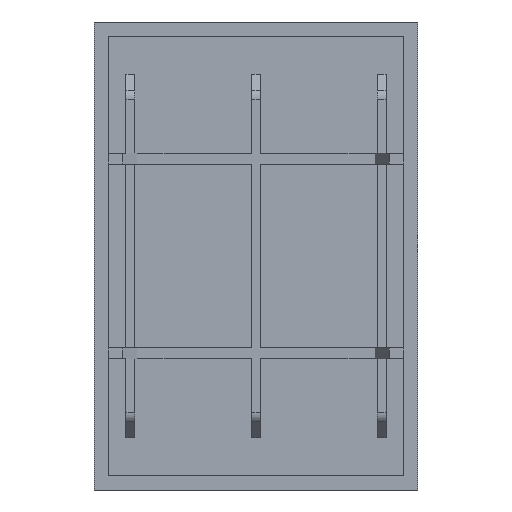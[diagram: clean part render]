
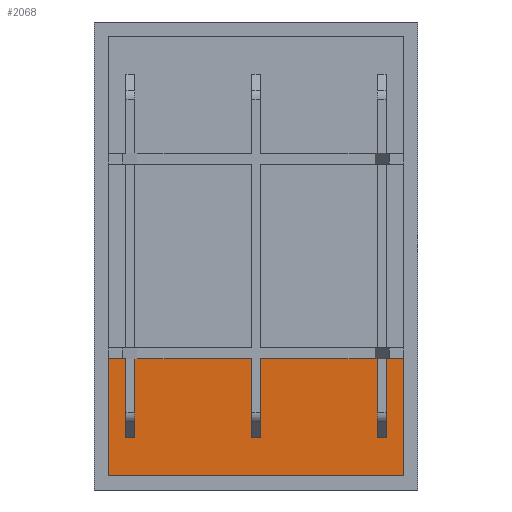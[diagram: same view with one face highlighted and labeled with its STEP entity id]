
A CAD part, front view. The second image highlights one B-rep face of the part: STEP entity #2068.
In plain terms, the highlighted planar face has unit normal (0, -1, 0).
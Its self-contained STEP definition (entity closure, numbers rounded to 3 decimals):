
#15 = CARTESIAN_POINT ( 'NONE',  ( 66.75, 1., -147.807 ) ) ;
#58 = CARTESIAN_POINT ( 'NONE',  ( 36., 1., -95. ) ) ;
#64 = VERTEX_POINT ( 'NONE', #329 ) ;
#101 = ORIENTED_EDGE ( 'NONE', *, *, #277, .F. ) ;
#126 = DIRECTION ( 'NONE',  ( 0., 0., -1. ) ) ;
#132 = VERTEX_POINT ( 'NONE', #1698 ) ;
#135 = ORIENTED_EDGE ( 'NONE', *, *, #1420, .F. ) ;
#153 = VERTEX_POINT ( 'NONE', #896 ) ;
#166 = DIRECTION ( 'NONE',  ( 1., 0., 0. ) ) ;
#182 = VERTEX_POINT ( 'NONE', #1753 ) ;
#191 = CARTESIAN_POINT ( 'NONE',  ( 3.25, 1., -77. ) ) ;
#208 = VERTEX_POINT ( 'NONE', #2368 ) ;
#255 = VERTEX_POINT ( 'NONE', #191 ) ;
#263 = CARTESIAN_POINT ( 'NONE',  ( 7.25, 1., -77. ) ) ;
#277 = EDGE_CURVE ( 'NONE', #182, #339, #755, .T. ) ;
#280 = VECTOR ( 'NONE', #1106, 1000. ) ;
#296 = LINE ( 'NONE', #694, #1569 ) ;
#298 = ORIENTED_EDGE ( 'NONE', *, *, #1861, .T. ) ;
#313 = EDGE_CURVE ( 'NONE', #2507, #1286, #1240, .T. ) ;
#329 = CARTESIAN_POINT ( 'NONE',  ( 64.75, 1., -95. ) ) ;
#339 = VERTEX_POINT ( 'NONE', #2227 ) ;
#359 = DIRECTION ( 'NONE',  ( 0., 0., -1. ) ) ;
#470 = EDGE_CURVE ( 'NONE', #153, #1301, #296, .T. ) ;
#477 = VERTEX_POINT ( 'NONE', #1478 ) ;
#491 = LINE ( 'NONE', #1890, #852 ) ;
#494 = EDGE_LOOP ( 'NONE', ( #1550, #2557, #502, #2315, #1036, #1694, #2497, #713, #101, #1306, #2514, #2498, #135, #2035, #298, #1923 ) ) ;
#502 = ORIENTED_EDGE ( 'NONE', *, *, #313, .T. ) ;
#564 = EDGE_CURVE ( 'NONE', #477, #182, #491, .T. ) ;
#615 = LINE ( 'NONE', #1595, #1020 ) ;
#694 = CARTESIAN_POINT ( 'NONE',  ( 7.25, 1., -95. ) ) ;
#713 = ORIENTED_EDGE ( 'NONE', *, *, #2060, .F. ) ;
#726 = DIRECTION ( 'NONE',  ( 1., 0., 0. ) ) ;
#755 = LINE ( 'NONE', #2569, #813 ) ;
#780 = VECTOR ( 'NONE', #1048, 1000. ) ;
#784 = VECTOR ( 'NONE', #2033, 1000. ) ;
#813 = VECTOR ( 'NONE', #359, 1000. ) ;
#814 = AXIS2_PLACEMENT_3D ( 'NONE', #856, #2084, #1683 ) ;
#852 = VECTOR ( 'NONE', #726, 1000. ) ;
#856 = CARTESIAN_POINT ( 'NONE',  ( 3.25, 1., -103.75 ) ) ;
#896 = CARTESIAN_POINT ( 'NONE',  ( 7.25, 1., -95. ) ) ;
#925 = CARTESIAN_POINT ( 'NONE',  ( 3.25, 1., -103.75 ) ) ;
#936 = CARTESIAN_POINT ( 'NONE',  ( 64.75, 1., -147.807 ) ) ;
#938 = CARTESIAN_POINT ( 'NONE',  ( 9.25, 1., -12. ) ) ;
#1006 = EDGE_CURVE ( 'NONE', #208, #64, #2147, .T. ) ;
#1009 = CARTESIAN_POINT ( 'NONE',  ( 37., 1., -77. ) ) ;
#1020 = VECTOR ( 'NONE', #1215, 1000. ) ;
#1036 = ORIENTED_EDGE ( 'NONE', *, *, #1006, .F. ) ;
#1040 = EDGE_CURVE ( 'NONE', #1705, #132, #1958, .T. ) ;
#1048 = DIRECTION ( 'NONE',  ( 1., 0., 0. ) ) ;
#1075 = EDGE_CURVE ( 'NONE', #255, #1658, #1748, .T. ) ;
#1091 = LINE ( 'NONE', #58, #1954 ) ;
#1098 = LINE ( 'NONE', #1736, #1441 ) ;
#1106 = DIRECTION ( 'NONE',  ( 0., 0., -1. ) ) ;
#1115 = DIRECTION ( 'NONE',  ( 1., 0., 0. ) ) ;
#1126 = CARTESIAN_POINT ( 'NONE',  ( 9.75, 1., -77. ) ) ;
#1131 = CARTESIAN_POINT ( 'NONE',  ( 66.75, 1., -77. ) ) ;
#1166 = VERTEX_POINT ( 'NONE', #1994 ) ;
#1170 = EDGE_CURVE ( 'NONE', #1690, #1166, #615, .T. ) ;
#1215 = DIRECTION ( 'NONE',  ( 0., 0., -1. ) ) ;
#1240 = LINE ( 'NONE', #15, #784 ) ;
#1286 = VERTEX_POINT ( 'NONE', #2272 ) ;
#1301 = VERTEX_POINT ( 'NONE', #2259 ) ;
#1306 = ORIENTED_EDGE ( 'NONE', *, *, #564, .F. ) ;
#1337 = EDGE_CURVE ( 'NONE', #2507, #1730, #1840, .T. ) ;
#1354 = LINE ( 'NONE', #2346, #280 ) ;
#1420 = EDGE_CURVE ( 'NONE', #1658, #153, #1354, .T. ) ;
#1431 = VECTOR ( 'NONE', #1982, 1000. ) ;
#1441 = VECTOR ( 'NONE', #1921, 1000. ) ;
#1478 = CARTESIAN_POINT ( 'NONE',  ( 9.25, 1., -77. ) ) ;
#1543 = VECTOR ( 'NONE', #1623, 1000. ) ;
#1550 = ORIENTED_EDGE ( 'NONE', *, *, #2476, .T. ) ;
#1569 = VECTOR ( 'NONE', #1115, 1000. ) ;
#1595 = CARTESIAN_POINT ( 'NONE',  ( 38., 1., -77. ) ) ;
#1608 = VECTOR ( 'NONE', #2556, 1000. ) ;
#1612 = LINE ( 'NONE', #1009, #1696 ) ;
#1623 = DIRECTION ( 'NONE',  ( 0., 0., 1. ) ) ;
#1658 = VERTEX_POINT ( 'NONE', #263 ) ;
#1683 = DIRECTION ( 'NONE',  ( 0., 0., -1. ) ) ;
#1690 = VERTEX_POINT ( 'NONE', #1889 ) ;
#1694 = ORIENTED_EDGE ( 'NONE', *, *, #2269, .F. ) ;
#1696 = VECTOR ( 'NONE', #2596, 1000. ) ;
#1698 = CARTESIAN_POINT ( 'NONE',  ( 70.75, 1., -103.75 ) ) ;
#1705 = VERTEX_POINT ( 'NONE', #925 ) ;
#1719 = EDGE_CURVE ( 'NONE', #477, #1301, #2350, .T. ) ;
#1721 = EDGE_CURVE ( 'NONE', #64, #1286, #1098, .T. ) ;
#1730 = VERTEX_POINT ( 'NONE', #2323 ) ;
#1736 = CARTESIAN_POINT ( 'NONE',  ( 37., 1., -95. ) ) ;
#1748 = LINE ( 'NONE', #1126, #1608 ) ;
#1753 = CARTESIAN_POINT ( 'NONE',  ( 36., 1., -77. ) ) ;
#1761 = CARTESIAN_POINT ( 'NONE',  ( 3.25, 1., -3.25 ) ) ;
#1795 = LINE ( 'NONE', #1761, #1431 ) ;
#1840 = LINE ( 'NONE', #2053, #780 ) ;
#1861 = EDGE_CURVE ( 'NONE', #255, #1705, #1795, .T. ) ;
#1889 = CARTESIAN_POINT ( 'NONE',  ( 38., 1., -77. ) ) ;
#1890 = CARTESIAN_POINT ( 'NONE',  ( 37., 1., -77. ) ) ;
#1891 = LINE ( 'NONE', #2252, #1543 ) ;
#1921 = DIRECTION ( 'NONE',  ( 1., 0., 0. ) ) ;
#1923 = ORIENTED_EDGE ( 'NONE', *, *, #1040, .T. ) ;
#1954 = VECTOR ( 'NONE', #2065, 1000. ) ;
#1958 = LINE ( 'NONE', #1970, #2450 ) ;
#1970 = CARTESIAN_POINT ( 'NONE',  ( 3.25, 1., -103.75 ) ) ;
#1982 = DIRECTION ( 'NONE',  ( 0., 0., -1. ) ) ;
#1993 = VECTOR ( 'NONE', #126, 1000. ) ;
#1994 = CARTESIAN_POINT ( 'NONE',  ( 38., 1., -95. ) ) ;
#2033 = DIRECTION ( 'NONE',  ( 0., 0., -1. ) ) ;
#2035 = ORIENTED_EDGE ( 'NONE', *, *, #1075, .F. ) ;
#2053 = CARTESIAN_POINT ( 'NONE',  ( 64.25, 1., -77. ) ) ;
#2060 = EDGE_CURVE ( 'NONE', #339, #1166, #1091, .T. ) ;
#2065 = DIRECTION ( 'NONE',  ( 1., 0., 0. ) ) ;
#2068 = ADVANCED_FACE ( 'NONE', ( #2099 ), #2282, .T. ) ;
#2084 = DIRECTION ( 'NONE',  ( 0., -1., 0. ) ) ;
#2099 = FACE_OUTER_BOUND ( 'NONE', #494, .T. ) ;
#2120 = DIRECTION ( 'NONE',  ( 0., 0., -1. ) ) ;
#2147 = LINE ( 'NONE', #936, #1993 ) ;
#2227 = CARTESIAN_POINT ( 'NONE',  ( 36., 1., -95. ) ) ;
#2252 = CARTESIAN_POINT ( 'NONE',  ( 70.75, 1., -3.25 ) ) ;
#2259 = CARTESIAN_POINT ( 'NONE',  ( 9.25, 1., -95. ) ) ;
#2269 = EDGE_CURVE ( 'NONE', #1690, #208, #1612, .T. ) ;
#2272 = CARTESIAN_POINT ( 'NONE',  ( 66.75, 1., -95. ) ) ;
#2282 = PLANE ( 'NONE',  #814 ) ;
#2315 = ORIENTED_EDGE ( 'NONE', *, *, #1721, .F. ) ;
#2323 = CARTESIAN_POINT ( 'NONE',  ( 70.75, 1., -77. ) ) ;
#2346 = CARTESIAN_POINT ( 'NONE',  ( 7.25, 1., -12. ) ) ;
#2350 = LINE ( 'NONE', #938, #2383 ) ;
#2368 = CARTESIAN_POINT ( 'NONE',  ( 64.75, 1., -77. ) ) ;
#2383 = VECTOR ( 'NONE', #2120, 1000. ) ;
#2450 = VECTOR ( 'NONE', #166, 1000. ) ;
#2476 = EDGE_CURVE ( 'NONE', #132, #1730, #1891, .T. ) ;
#2497 = ORIENTED_EDGE ( 'NONE', *, *, #1170, .T. ) ;
#2498 = ORIENTED_EDGE ( 'NONE', *, *, #470, .F. ) ;
#2507 = VERTEX_POINT ( 'NONE', #1131 ) ;
#2514 = ORIENTED_EDGE ( 'NONE', *, *, #1719, .T. ) ;
#2556 = DIRECTION ( 'NONE',  ( 1., 0., 0. ) ) ;
#2557 = ORIENTED_EDGE ( 'NONE', *, *, #1337, .F. ) ;
#2569 = CARTESIAN_POINT ( 'NONE',  ( 36., 1., -77. ) ) ;
#2596 = DIRECTION ( 'NONE',  ( 1., 0., 0. ) ) ;
